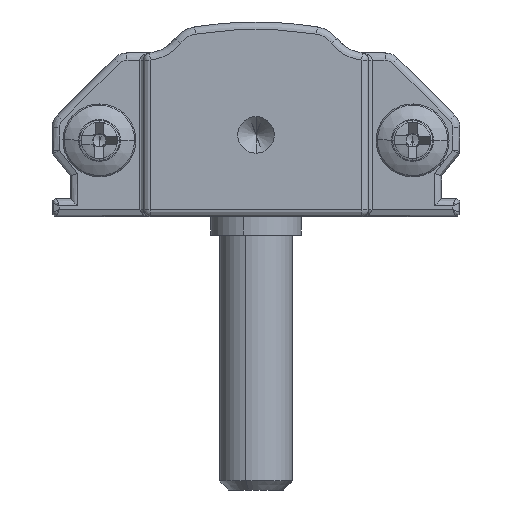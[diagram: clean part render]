
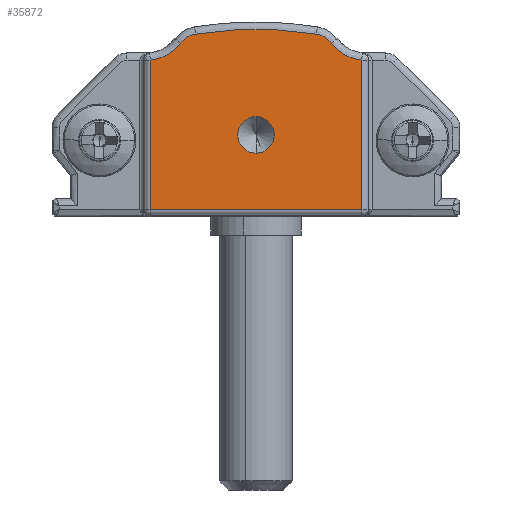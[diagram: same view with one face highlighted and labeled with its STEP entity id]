
A CAD part, front view. The second image highlights one B-rep face of the part: STEP entity #35872.
In plain terms, the highlighted planar face has unit normal (0, -1, 0).
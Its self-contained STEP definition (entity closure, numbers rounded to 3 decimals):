
#238 = EDGE_CURVE ( 'NONE', #38931, #489, #8370, .T. ) ;
#489 = VERTEX_POINT ( 'NONE', #36906 ) ;
#642 = PLANE ( 'NONE',  #32779 ) ;
#1636 = CIRCLE ( 'NONE', #15795, 2.4 ) ;
#1703 = CARTESIAN_POINT ( 'NONE',  ( 17., -15., 8.612 ) ) ;
#1865 = CARTESIAN_POINT ( 'NONE',  ( 17., -15., 8.612 ) ) ;
#3742 = AXIS2_PLACEMENT_3D ( 'NONE', #39710, #46072, #17777 ) ;
#3965 = ORIENTED_EDGE ( 'NONE', *, *, #22111, .T. ) ;
#4077 = AXIS2_PLACEMENT_3D ( 'NONE', #5035, #33476, #22073 ) ;
#4854 = DIRECTION ( 'NONE',  ( 0., 0., -1. ) ) ;
#5035 = CARTESIAN_POINT ( 'NONE',  ( 11.2, -15., 4.5 ) ) ;
#5298 = CARTESIAN_POINT ( 'NONE',  ( 17.238, -15., 11. ) ) ;
#5854 = EDGE_CURVE ( 'NONE', #12644, #8090, #35639, .T. ) ;
#6955 = VERTEX_POINT ( 'NONE', #30324 ) ;
#7353 = AXIS2_PLACEMENT_3D ( 'NONE', #25775, #12261, #40035 ) ;
#8090 = VERTEX_POINT ( 'NONE', #12886 ) ;
#8370 = LINE ( 'NONE', #33041, #28417 ) ;
#8501 = CIRCLE ( 'NONE', #22614, 20.676 ) ;
#8880 = CARTESIAN_POINT ( 'NONE',  ( 17., -15., 0.4 ) ) ;
#10836 = ORIENTED_EDGE ( 'NONE', *, *, #14892, .T. ) ;
#10971 = DIRECTION ( 'NONE',  ( 0., -1., 0. ) ) ;
#11826 = CARTESIAN_POINT ( 'NONE',  ( 22.15, -15., 3.606 ) ) ;
#11827 = EDGE_CURVE ( 'NONE', #8090, #38931, #31009, .T. ) ;
#12261 = DIRECTION ( 'NONE',  ( 0., -1., 0. ) ) ;
#12644 = VERTEX_POINT ( 'NONE', #34025 ) ;
#12669 = VERTEX_POINT ( 'NONE', #8880 ) ;
#12886 = CARTESIAN_POINT ( 'NONE',  ( 7.068, -15., 9.541 ) ) ;
#12906 = EDGE_LOOP ( 'NONE', ( #27774, #31654, #10836, #3965, #45337, #15366, #14166, #42889 ) ) ;
#14144 = EDGE_CURVE ( 'NONE', #489, #12669, #31498, .T. ) ;
#14166 = ORIENTED_EDGE ( 'NONE', *, *, #238, .T. ) ;
#14264 = EDGE_CURVE ( 'NONE', #12669, #39053, #33340, .T. ) ;
#14892 = EDGE_CURVE ( 'NONE', #29396, #6955, #23837, .T. ) ;
#14894 = FACE_OUTER_BOUND ( 'NONE', #12906, .T. ) ;
#15366 = ORIENTED_EDGE ( 'NONE', *, *, #11827, .T. ) ;
#15596 = EDGE_CURVE ( 'NONE', #39053, #29396, #1636, .T. ) ;
#15795 = AXIS2_PLACEMENT_3D ( 'NONE', #5298, #43564, #40284 ) ;
#17777 = DIRECTION ( 'NONE',  ( 0., 0., -1. ) ) ;
#18185 = DIRECTION ( 'NONE',  ( 0., 1., 0. ) ) ;
#18553 = VECTOR ( 'NONE', #26551, 1000. ) ;
#19728 = CIRCLE ( 'NONE', #4077, 1. ) ;
#21477 = DIRECTION ( 'NONE',  ( 0., 0., -1. ) ) ;
#21555 = VERTEX_POINT ( 'NONE', #25711 ) ;
#22073 = DIRECTION ( 'NONE',  ( 0., 0., -1. ) ) ;
#22111 = EDGE_CURVE ( 'NONE', #6955, #12644, #8501, .T. ) ;
#22522 = AXIS2_PLACEMENT_3D ( 'NONE', #25227, #29959, #40880 ) ;
#22614 = AXIS2_PLACEMENT_3D ( 'NONE', #31698, #10971, #28930 ) ;
#22997 = DIRECTION ( 'NONE',  ( 0., 0., -1. ) ) ;
#23837 = CIRCLE ( 'NONE', #3742, 1.3 ) ;
#25209 = VECTOR ( 'NONE', #42238, 1000. ) ;
#25227 = CARTESIAN_POINT ( 'NONE',  ( 11.2, -15., 4.5 ) ) ;
#25711 = CARTESIAN_POINT ( 'NONE',  ( 11.2, -15., 5.5 ) ) ;
#25775 = CARTESIAN_POINT ( 'NONE',  ( 8.1, -15., 8.75 ) ) ;
#25802 = DIRECTION ( 'NONE',  ( 0., -1., 0. ) ) ;
#26112 = CARTESIAN_POINT ( 'NONE',  ( 15.332, -15., 9.541 ) ) ;
#26551 = DIRECTION ( 'NONE',  ( 0., 0., 1. ) ) ;
#27774 = ORIENTED_EDGE ( 'NONE', *, *, #14264, .T. ) ;
#27949 = VERTEX_POINT ( 'NONE', #40028 ) ;
#28417 = VECTOR ( 'NONE', #22997, 1000. ) ;
#28545 = CARTESIAN_POINT ( 'NONE',  ( 5.4, -15., 8.612 ) ) ;
#28930 = DIRECTION ( 'NONE',  ( 0., 0., -1. ) ) ;
#29209 = CARTESIAN_POINT ( 'NONE',  ( 5.162, -15., 11. ) ) ;
#29396 = VERTEX_POINT ( 'NONE', #26112 ) ;
#29959 = DIRECTION ( 'NONE',  ( 0., -1., 0. ) ) ;
#30324 = CARTESIAN_POINT ( 'NONE',  ( 14.508, -15., 10.034 ) ) ;
#31009 = CIRCLE ( 'NONE', #42920, 2.4 ) ;
#31498 = LINE ( 'NONE', #45758, #25209 ) ;
#31654 = ORIENTED_EDGE ( 'NONE', *, *, #15596, .T. ) ;
#31698 = CARTESIAN_POINT ( 'NONE',  ( 11.2, -15., -10.376 ) ) ;
#31949 = EDGE_CURVE ( 'NONE', #27949, #21555, #19728, .T. ) ;
#32198 = CIRCLE ( 'NONE', #22522, 1. ) ;
#32606 = FACE_BOUND ( 'NONE', #44716, .T. ) ;
#32779 = AXIS2_PLACEMENT_3D ( 'NONE', #11826, #25802, #4854 ) ;
#33041 = CARTESIAN_POINT ( 'NONE',  ( 5.4, -15., 0.4 ) ) ;
#33340 = LINE ( 'NONE', #1865, #18553 ) ;
#33476 = DIRECTION ( 'NONE',  ( 0., -1., 0. ) ) ;
#34025 = CARTESIAN_POINT ( 'NONE',  ( 7.892, -15., 10.034 ) ) ;
#35447 = ORIENTED_EDGE ( 'NONE', *, *, #31949, .F. ) ;
#35639 = CIRCLE ( 'NONE', #7353, 1.3 ) ;
#35872 = ADVANCED_FACE ( 'NONE', ( #14894, #32606 ), #642, .T. ) ;
#36906 = CARTESIAN_POINT ( 'NONE',  ( 5.4, -15., 0.4 ) ) ;
#37908 = EDGE_CURVE ( 'NONE', #21555, #27949, #32198, .T. ) ;
#38931 = VERTEX_POINT ( 'NONE', #28545 ) ;
#39053 = VERTEX_POINT ( 'NONE', #1703 ) ;
#39710 = CARTESIAN_POINT ( 'NONE',  ( 14.3, -15., 8.75 ) ) ;
#40028 = CARTESIAN_POINT ( 'NONE',  ( 11.2, -15., 3.5 ) ) ;
#40035 = DIRECTION ( 'NONE',  ( 0., 0., -1. ) ) ;
#40284 = DIRECTION ( 'NONE',  ( 0., 0., -1. ) ) ;
#40880 = DIRECTION ( 'NONE',  ( 0., 0., -1. ) ) ;
#42238 = DIRECTION ( 'NONE',  ( 1., 0., 0. ) ) ;
#42889 = ORIENTED_EDGE ( 'NONE', *, *, #14144, .T. ) ;
#42920 = AXIS2_PLACEMENT_3D ( 'NONE', #29209, #18185, #21477 ) ;
#43564 = DIRECTION ( 'NONE',  ( 0., 1., 0. ) ) ;
#44716 = EDGE_LOOP ( 'NONE', ( #35447, #44872 ) ) ;
#44872 = ORIENTED_EDGE ( 'NONE', *, *, #37908, .F. ) ;
#45337 = ORIENTED_EDGE ( 'NONE', *, *, #5854, .T. ) ;
#45758 = CARTESIAN_POINT ( 'NONE',  ( 17., -15., 0.4 ) ) ;
#46072 = DIRECTION ( 'NONE',  ( 0., -1., 0. ) ) ;
